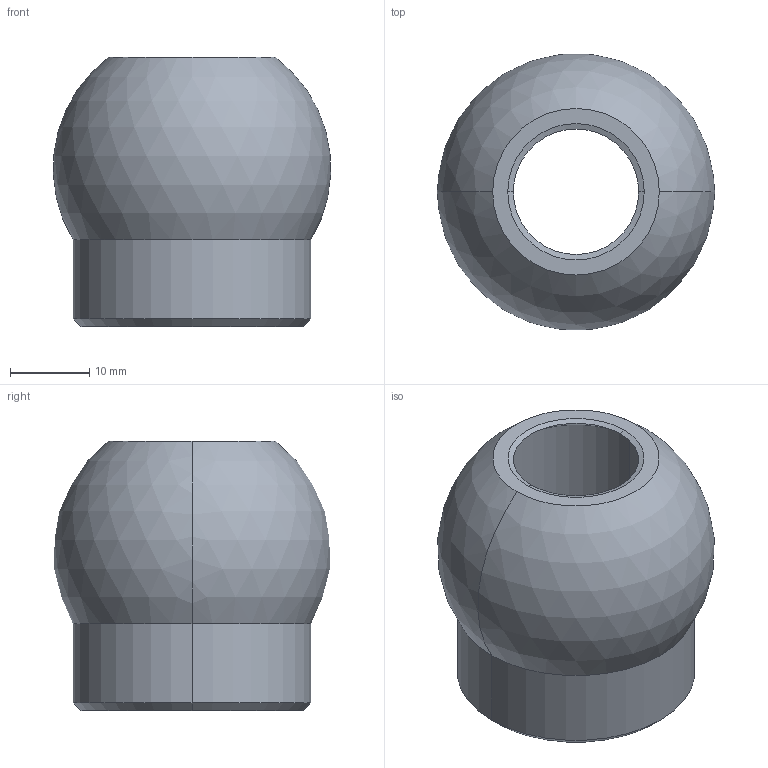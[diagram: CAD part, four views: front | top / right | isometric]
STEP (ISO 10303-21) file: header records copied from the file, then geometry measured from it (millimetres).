
FILE_DESCRIPTION((''),'2;1');
FILE_NAME('2100-458','2010-09-14T',('on'),(''),'PRO/ENGINEER BY PARAMETRIC TECHNOLOGY CORPORATION, 2005110','PRO/ENGINEER BY PARAMETRIC TECHNOLOGY CORPORATION, 2005110','');
FILE_SCHEMA(('CONFIG_CONTROL_DESIGN'));
Length unit declared in the file: millimetre
Products named in the file (1): 2100-458
Bounding box: 34.95 x 34.74 x 34 mm (x, y, z)
Volume: 16529.2 mm3; surface area: 6108.8 mm2
Topology: 1 solids, 1 shells, 16 faces, 32 edges, 18 vertices
Faces by surface type: cone 8, cylinder 4, plane 2, sphere 2
Entity records: 458 total; most frequent: DIRECTION 84, CARTESIAN_POINT 66, ORIENTED_EDGE 64, AXIS2_PLACEMENT_3D 36, EDGE_CURVE 32, CIRCLE 20, VERTEX_POINT 18, EDGE_LOOP 18
